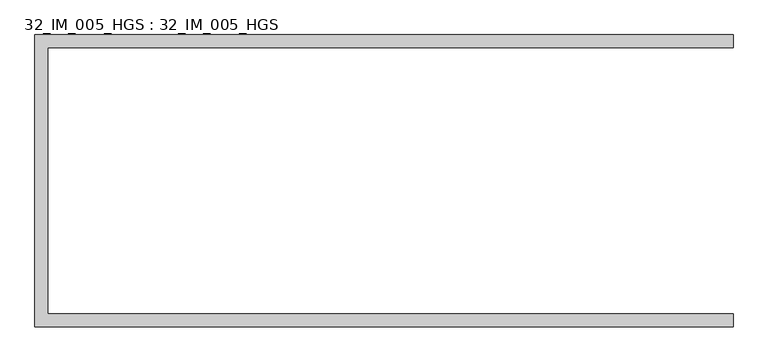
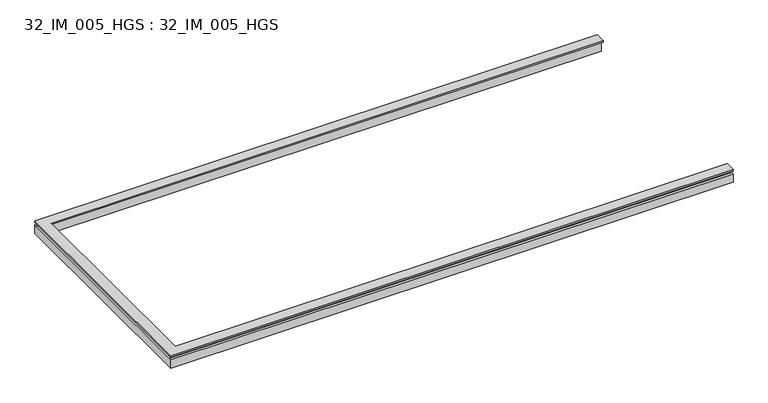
"""IFC4 building model written with IfcOpenShell, lengths in millimetres: member geometry, 32_IM_005_HGS : 32_IM_005_HGS."""

from ifc_helpers import new_model, si_unit, origin, place, context, project, spatial, faceted_brep, source, transform, mapped, element, save


def member_32_im_005_hgs_32_im_005_hgs_e924d92b(model_context):
    return source(origin(), model_context, "Body", "Brep", [
        faceted_brep([(1177.5, 449.0, 12.5), (1177.5, 449.0, 7.5), (1177.5, 465.0, 7.5), (1177.5, 465.0, -42.5), (1177.5, 493.0, -42.5), (1177.5, 493.0, -6.0), (1177.5, 482.0, -6.0), (1177.5, 482.0, 6.0), (1177.5, 493.0, 6.0), (1177.5, 493.0, 12.5), (-1177.5, 482.0, -6.0), (-1177.5, 493.0, -6.0), (-1177.5, 493.0, -42.5), (-1177.5, -493.0, -42.5), (-1177.5, -493.0, -6.0), (-1177.5, -482.0, -6.0), (-1177.5, -482.0, -5.0), (-1177.5, 482.0, -5.0), (-1177.5, 493.0, 12.5), (-1177.5, 493.0, 6.0), (-1177.5, 482.0, 6.0), (-1177.5, 482.0, 5.0), (-1177.5, -482.0, 5.0), (-1177.5, -482.0, 6.0), (-1177.5, -493.0, 6.0), (-1177.5, -493.0, 12.5), (-1133.5, 449.0, 12.5), (-1133.5, 449.0, 7.5), (1177.5, -493.0, 12.5), (1177.5, -449.0, 12.5), (-1133.5, -449.0, 12.5), (-1166.5, 482.0, -5.0), (-1166.5, 482.0, 5.0), (-1149.5, 465.0, -42.5), (-1149.5, -465.0, -42.5), (1177.5, -465.0, -42.5), (1177.5, -493.0, -42.5), (-1149.5, 465.0, 7.5), (-1149.5, -465.0, 7.5), (-1133.5, -449.0, 7.5), (1177.5, -449.0, 7.5), (1177.5, -465.0, 7.5), (1177.5, -482.0, -6.0), (1177.5, -482.0, 6.0), (-1166.5, -482.0, 5.0), (-1166.5, -482.0, -5.0), (1177.5, -493.0, 6.0), (1177.5, -493.0, -6.0)], [[[0, 1, 2, 3, 4, 5, 6, 7, 8, 9]], [[10, 11, 12, 13, 14, 15, 16, 17]], [[18, 19, 20, 21, 22, 23, 24, 25]], [[0, 26, 27, 1]], [[26, 0, 9, 18, 25, 28, 29, 30]], [[7, 6, 10, 17, 31, 32, 21, 20]], [[33, 34, 35, 36, 13, 12, 4, 3]], [[37, 38, 34, 33]], [[37, 2, 1, 27, 39, 40, 41, 38]], [[38, 41, 35, 34]], [[2, 37, 33, 3]], [[42, 43, 23, 22, 44, 45, 16, 15]], [[26, 30, 39, 27]], [[40, 29, 28, 46, 43, 42, 47, 36, 35, 41]], [[30, 29, 40, 39]], [[6, 5, 11, 10]], [[5, 4, 12, 11]], [[9, 8, 19, 18]], [[8, 7, 20, 19]], [[15, 14, 47, 42]], [[14, 13, 36, 47]], [[25, 24, 46, 28]], [[24, 23, 43, 46]], [[31, 45, 44, 32]], [[45, 31, 17, 16]], [[32, 44, 22, 21]]]),
    ])


if __name__ == "__main__":
    model = new_model("IFC4")
    model_context = context("Model", 3, world=origin())
    ifc_project = project(units=[si_unit("LENGTHUNIT", "METRE", prefix="MILLI")], contexts=[model_context])
    site = spatial("IfcSite", under=ifc_project)
    building = spatial("IfcBuilding", under=site)
    placement = place(None, origin())
    member_32_im_005_hgs_32_im_005_hgs_shape = member_32_im_005_hgs_32_im_005_hgs_e924d92b(model_context)
    element("IfcMember", 1, ObjectType="32_IM_005_HGS : 32_IM_005_HGS", at=placement, inside=building, context=model_context, shape_type="MappedRepresentation", body=[
        mapped(member_32_im_005_hgs_32_im_005_hgs_shape, transform((0.0, 0.0, 0.0), x_axis=(1.0, 0.0, 0.0), y_axis=(0.0, 1.0, 0.0), z_axis=(0.0, 0.0, 1.0))),
    ])
    save(model, "model.ifc")
